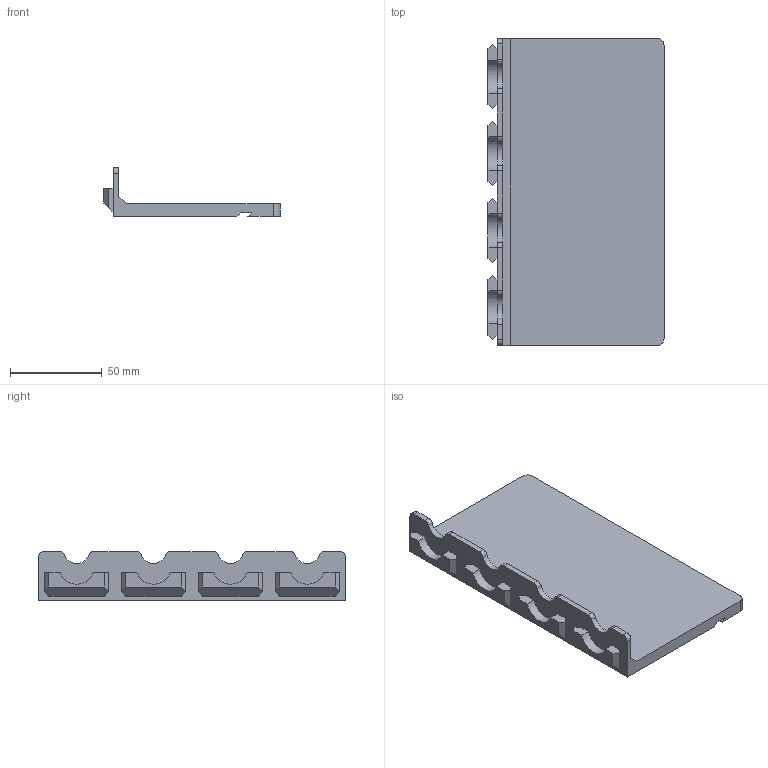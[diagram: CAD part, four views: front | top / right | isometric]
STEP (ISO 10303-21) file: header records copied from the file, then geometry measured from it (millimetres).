
FILE_DESCRIPTION(/* description */ ('','CAx-IF Rec.Pracs.---Representation and Presentation of Product Manufacturing Information (PMI)---4.0---2014-10-13'),/* implementation_level */ '2;1');
FILE_NAME(/* name */ 'Goews 4x Hanger Shelf 2x.step',/* time_stamp */ '2024-11-28T18:04:57-05:00',/* author */ (''),/* organization */ (''),/* preprocessor_version */ 'ST-DEVELOPER v20',/* originating_system */ 'Autodesk Translation Framework v13.20.0.188',/* authorisation */ '');
FILE_SCHEMA (('AP242_MANAGED_MODEL_BASED_3D_ENGINEERING_MIM_LF { 1 0 10303 442 1 1 4 }'));
Length unit declared in the file: millimetre
Products named in the file (1): Goews 4x Hanger Shelf 2x
Bounding box: 96.15 x 167.6 x 26.72 mm (x, y, z)
Volume: 120463.1 mm3; surface area: 42587.3 mm2
Topology: 1 solids, 1 shells, 81 faces, 217 edges, 142 vertices
Faces by surface type: plane 61, cylinder 20
Entity records: 2540 total; most frequent: CARTESIAN_POINT 441, ORIENTED_EDGE 434, DIRECTION 421, EDGE_CURVE 217, LINE 177, VECTOR 177, VERTEX_POINT 142, AXIS2_PLACEMENT_3D 122
